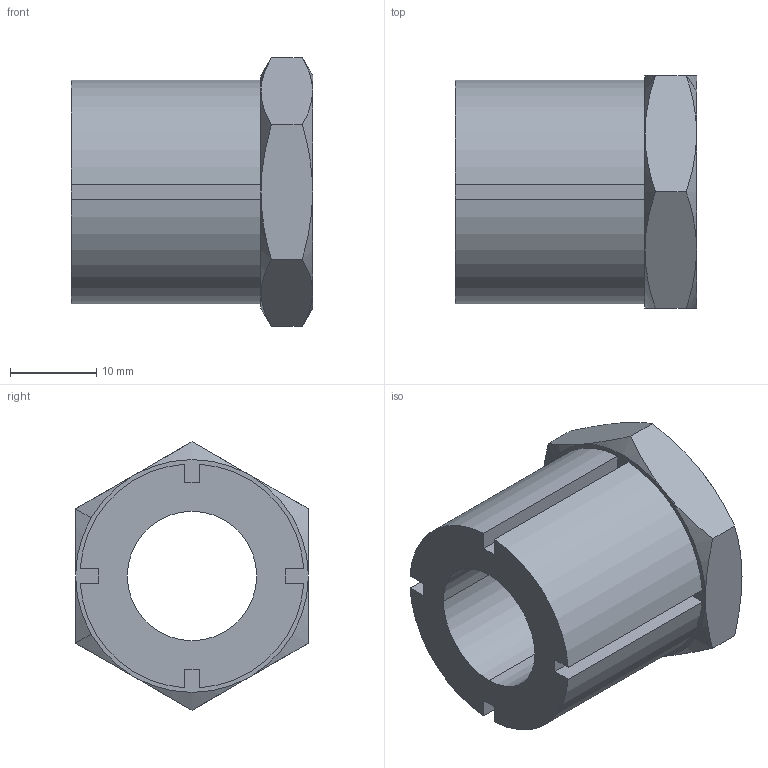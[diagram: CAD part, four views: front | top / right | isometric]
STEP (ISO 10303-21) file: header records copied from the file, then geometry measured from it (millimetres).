
FILE_DESCRIPTION((''),'2;1');
FILE_NAME('C:\WIXROYD\Positioning\3840\3840W015.stp','2003-01-09T15:38:58',('Administrator'),(''),'Autodesk Inventor (tm) 5.0','Autodesk Inventor (tm) 5.0','');
FILE_SCHEMA(('CONFIG_CONTROL_DESIGN'));
Length unit declared in the file: millimetre
Products named in the file (1): 3840W015
Bounding box: 28 x 27 x 31.18 mm (x, y, z)
Volume: 10150 mm3; surface area: 4909.9 mm2
Topology: 1 solids, 1 shells, 45 faces, 110 edges, 68 vertices
Faces by surface type: plane 21, cone 16, cylinder 8
Entity records: 1383 total; most frequent: CARTESIAN_POINT 272, ORIENTED_EDGE 220, DIRECTION 210, EDGE_CURVE 110, AXIS2_PLACEMENT_3D 78, VERTEX_POINT 68, VECTOR 54, LINE 54
